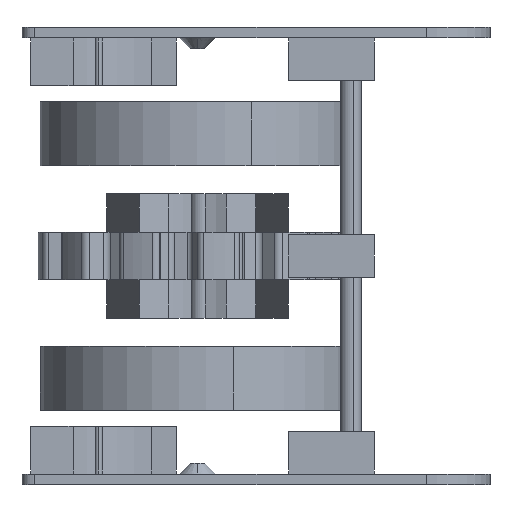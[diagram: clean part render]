
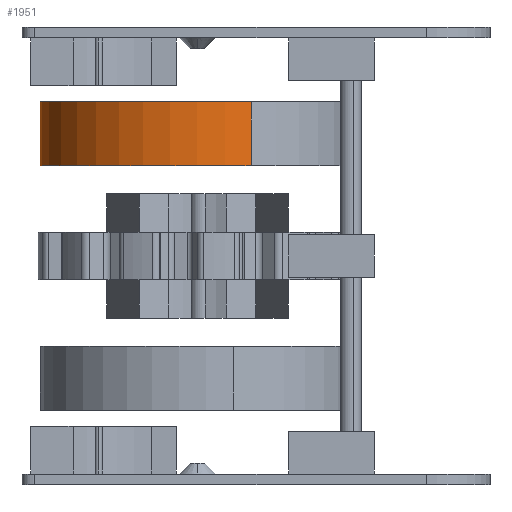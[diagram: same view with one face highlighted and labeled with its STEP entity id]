
A CAD part, left-side view. The second image highlights one B-rep face of the part: STEP entity #1951.
In plain terms, the highlighted cylindrical face has radius 74 mm (diameter 148 mm), a partial arc.
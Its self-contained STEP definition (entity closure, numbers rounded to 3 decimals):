
#166 = CARTESIAN_POINT ( 'NONE',  ( 69.575, -57.295, -560.991 ) ) ;
#511 = ORIENTED_EDGE ( 'NONE', *, *, #5697, .T. ) ;
#1183 = VERTEX_POINT ( 'NONE', #166 ) ;
#1560 = CARTESIAN_POINT ( 'NONE',  ( 69.575, -57.295, -560.991 ) ) ;
#1655 = CARTESIAN_POINT ( 'NONE',  ( -69.575, -107.705, -560.991 ) ) ;
#1727 = ORIENTED_EDGE ( 'NONE', *, *, #9456, .F. ) ;
#1773 = CARTESIAN_POINT ( 'NONE',  ( -69.575, -107.705, -560.991 ) ) ;
#1951 = ADVANCED_FACE ( 'NONE', ( #7087 ), #2714, .T. ) ;
#2701 = ORIENTED_EDGE ( 'NONE', *, *, #5716, .F. ) ;
#2714 = CYLINDRICAL_SURFACE ( 'NONE', #9179, 74. ) ;
#2983 = VECTOR ( 'NONE', #6988, 1000. ) ;
#3121 = DIRECTION ( 'NONE',  ( 0., 0., 1. ) ) ;
#3186 = CARTESIAN_POINT ( 'NONE',  ( 0., -82.5, -590.991 ) ) ;
#3589 = VECTOR ( 'NONE', #5532, 1000. ) ;
#3649 = VERTEX_POINT ( 'NONE', #10045 ) ;
#3687 = CARTESIAN_POINT ( 'NONE',  ( -69.575, -107.705, -590.991 ) ) ;
#3985 = DIRECTION ( 'NONE',  ( -0.94, -0.341, 0. ) ) ;
#4076 = EDGE_CURVE ( 'NONE', #1183, #3649, #8610, .T. ) ;
#4796 = AXIS2_PLACEMENT_3D ( 'NONE', #3186, #8608, #3985 ) ;
#4874 = DIRECTION ( 'NONE',  ( 0., 0., -1. ) ) ;
#5532 = DIRECTION ( 'NONE',  ( 0., 0., -1. ) ) ;
#5668 = DIRECTION ( 'NONE',  ( 0.94, 0.341, 0. ) ) ;
#5697 = EDGE_CURVE ( 'NONE', #3649, #9836, #7944, .T. ) ;
#5716 = EDGE_CURVE ( 'NONE', #6898, #9836, #9775, .T. ) ;
#6749 = EDGE_LOOP ( 'NONE', ( #2701, #1727, #8998, #511 ) ) ;
#6898 = VERTEX_POINT ( 'NONE', #1773 ) ;
#6988 = DIRECTION ( 'NONE',  ( 0., 0., -1. ) ) ;
#7087 = FACE_OUTER_BOUND ( 'NONE', #6749, .T. ) ;
#7744 = CARTESIAN_POINT ( 'NONE',  ( 0., -82.5, -560.991 ) ) ;
#7944 = CIRCLE ( 'NONE', #4796, 74. ) ;
#7960 = CARTESIAN_POINT ( 'NONE',  ( 0., -82.5, -560.991 ) ) ;
#8539 = DIRECTION ( 'NONE',  ( -0.94, -0.341, 0. ) ) ;
#8608 = DIRECTION ( 'NONE',  ( 0., 0., 1. ) ) ;
#8610 = LINE ( 'NONE', #1560, #2983 ) ;
#8718 = CIRCLE ( 'NONE', #9966, 74. ) ;
#8998 = ORIENTED_EDGE ( 'NONE', *, *, #4076, .T. ) ;
#9179 = AXIS2_PLACEMENT_3D ( 'NONE', #7960, #4874, #5668 ) ;
#9456 = EDGE_CURVE ( 'NONE', #1183, #6898, #8718, .T. ) ;
#9775 = LINE ( 'NONE', #1655, #3589 ) ;
#9836 = VERTEX_POINT ( 'NONE', #3687 ) ;
#9966 = AXIS2_PLACEMENT_3D ( 'NONE', #7744, #3121, #8539 ) ;
#10045 = CARTESIAN_POINT ( 'NONE',  ( 69.575, -57.295, -590.991 ) ) ;
